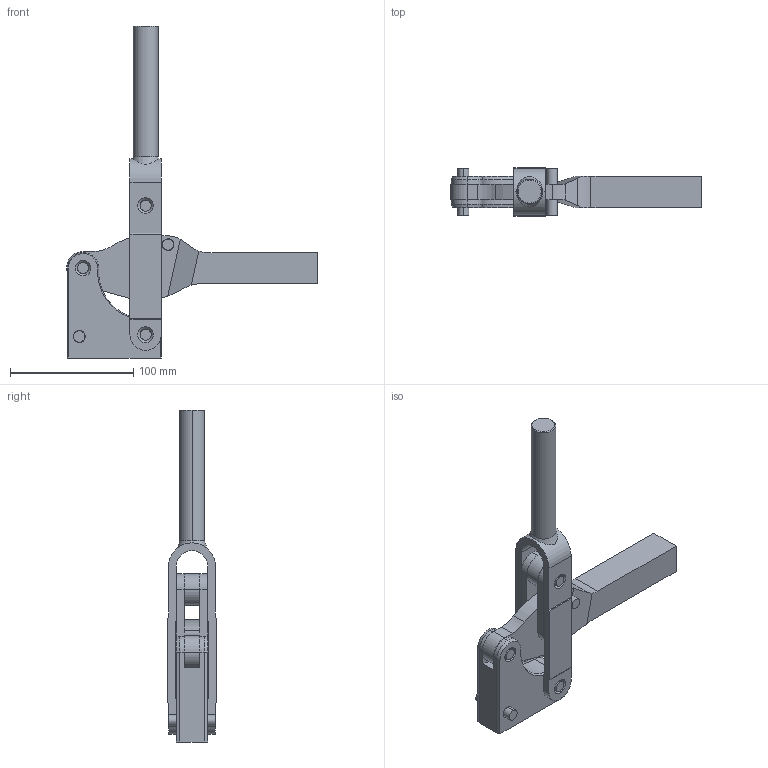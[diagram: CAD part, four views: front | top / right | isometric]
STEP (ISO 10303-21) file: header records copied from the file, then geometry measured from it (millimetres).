
FILE_DESCRIPTION( ( '' ), '1' );
FILE_NAME( 'C:\Documents and Settings\Richard Grenzke\My Documents\Wolverine Company Data\WOLVERINE CD 5_17_05\SOLIDS STEP\hold_down\cq915.stp', ' ', ( '' ), ( '' ), 'ACIS Interop R16', 'Kubotek KeyCreator V5.5.1 (0454)', ' ' );
FILE_SCHEMA( ( 'CONFIG_CONTROL_DESIGN' ) );
Length unit declared in the file: inch
Products named in the file (12): 1; 2; 3; 4; 5; 6; 7; 8; 9; 10; 11; 12
Bounding box: 203.99 x 39.62 x 269.8 mm (x, y, z)
Volume: 326114.3 mm3; surface area: 85248.9 mm2
Topology: 11 solids, 11 shells, 181 faces, 484 edges, 325 vertices
Faces by surface type: cylinder 76, plane 73, cone 30, torus 2
Entity records: 6434 total; most frequent: CARTESIAN_POINT 1096, DIRECTION 1093, ORIENTED_EDGE 968, EDGE_CURVE 484, AXIS2_PLACEMENT_3D 424, VERTEX_POINT 325, LINE 245, VECTOR 245
